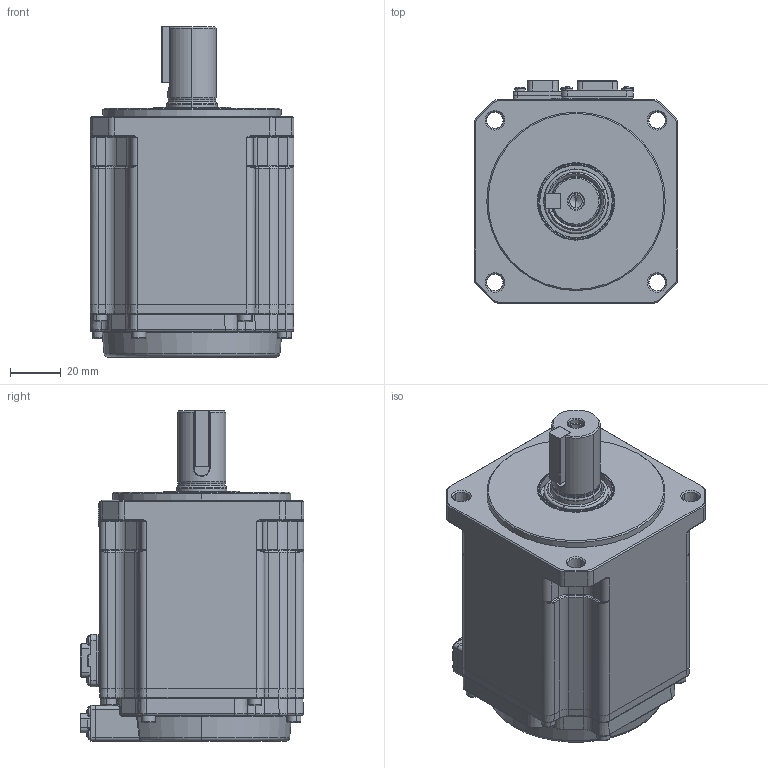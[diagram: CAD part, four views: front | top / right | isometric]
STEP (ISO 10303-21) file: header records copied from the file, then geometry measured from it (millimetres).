
FILE_DESCRIPTION (( 'STEP AP214' ), '1' );
FILE_NAME ('80-750W-衄蚐猾拸秶雄ん(RSK1-H080A08B30S).STEP', '2024-09-06T11:06:31', ( '' ), ( '' ), 'SwSTEP 2.0', 'SolidWorks 2020', '' );
FILE_SCHEMA (( 'AUTOMOTIVE_DESIGN' ));
Length unit declared in the file: millimetre
Products named in the file (11): 3220000002_蚐猾_TC20x30x4(NBR); 3231000001_勾板螺丝型6pin连接器插座_GAMC3064_无制动器线; 3130000002_す瑩_B6x6x22(GBT1096-2003 湍れ瑩蹟謂M3); 3111000003_内六角圆柱头螺钉_M3x10(GBT70.1-2000 锌镍合金 黑色 耐落 12.9级）; 2181000003_綴裔_RSK1-H080A08B30S36; 80-750W-衄蚐猾拸秶雄ん(RSK1-H080A08B30S); 2151000006_粣_RSK1-H080A08B30S36; 2142000004_儂褲禱矗_RSK1-H080A08B30S36; 3114000001_十字槽盘头自挤螺钉_M2x5(GBT6560-2014 锌镍合金 黑色); 2174000003_綴傷裔禱矗_RSK1-H080A08B30S36; 苤萇儂晤鎢傷赽
Assembly tree (24 placements, depth 2):
  80-750W-衄蚐猾拸秶雄ん(RSK1-H080A08B30S)
    2142000004_儂褲禱矗_RSK1-H080A08B30S36
    2151000006_粣_RSK1-H080A08B30S36
    2174000003_綴傷裔禱矗_RSK1-H080A08B30S36
    2181000003_綴裔_RSK1-H080A08B30S36
    3111000003_内六角圆柱头螺钉_M3x10(GBT70.1-2000 锌镍合金 黑色 耐落 12.9级）  x8
    3114000001_十字槽盘头自挤螺钉_M2x5(GBT6560-2014 锌镍合金 黑色)  x8
    3130000002_す瑩_B6x6x22(GBT1096-2003 湍れ瑩蹟謂M3)
    3220000002_蚐猾_TC20x30x4(NBR)
    3231000001_勾板螺丝型6pin连接器插座_GAMC3064_无制动器线
    苤萇儂晤鎢傷赽
Bounding box: 80 x 87.6 x 129.6 mm (x, y, z)
Volume: 447979.4 mm3; surface area: 89427.8 mm2
Topology: 27 solids, 27 shells, 3465 faces, 8996 edges, 5699 vertices
Faces by surface type: plane 1739, cylinder 650, bspline 459, cone 315, torus 280, sphere 22
Entity records: 124238 total; most frequent: CARTESIAN_POINT 37159, ORIENTED_EDGE 16068, DIRECTION 13862, EDGE_CURVE 8034, VERTEX_POINT 5118, LINE 4924, VECTOR 4924, AXIS2_PLACEMENT_3D 4469
